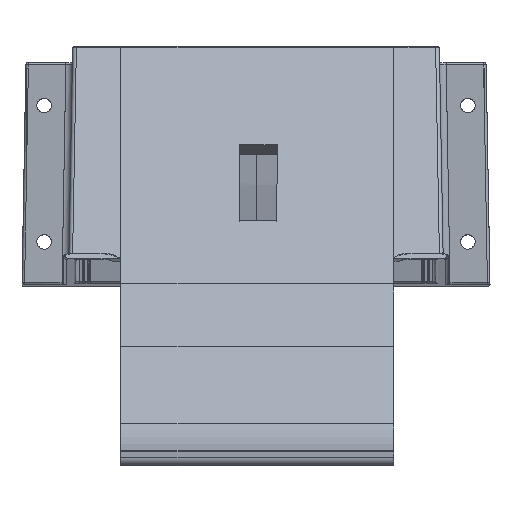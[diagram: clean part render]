
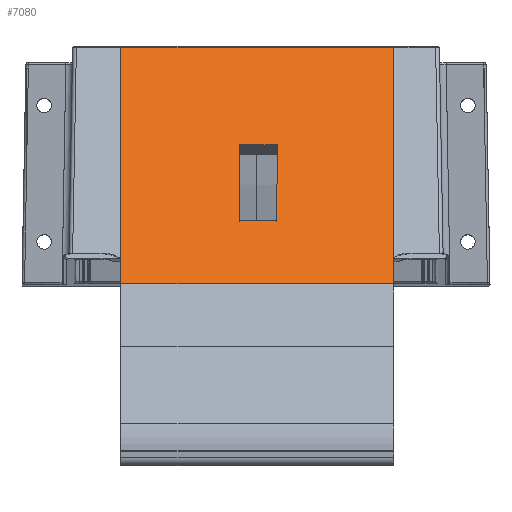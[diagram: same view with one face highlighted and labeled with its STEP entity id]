
A CAD part, left-side view. The second image highlights one B-rep face of the part: STEP entity #7080.
In plain terms, the highlighted planar face has unit normal (-0.8, 0, 0.6).
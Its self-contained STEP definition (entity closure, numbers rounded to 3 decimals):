
#1266=ORIENTED_EDGE('',*,*,#3632,.T.);
#1267=ORIENTED_EDGE('',*,*,#3633,.F.);
#1268=ORIENTED_EDGE('',*,*,#3634,.F.);
#1269=ORIENTED_EDGE('',*,*,#3635,.T.);
#1270=ORIENTED_EDGE('',*,*,#3636,.F.);
#1271=ORIENTED_EDGE('',*,*,#3637,.F.);
#1272=ORIENTED_EDGE('',*,*,#3638,.F.);
#1273=ORIENTED_EDGE('',*,*,#3639,.F.);
#3632=EDGE_CURVE('',#4815,#4816,#5604,.T.);
#3633=EDGE_CURVE('',#4817,#4816,#5605,.T.);
#3634=EDGE_CURVE('',#4818,#4817,#5606,.T.);
#3635=EDGE_CURVE('',#4818,#4815,#5607,.T.);
#3636=EDGE_CURVE('',#4819,#4820,#5608,.T.);
#3637=EDGE_CURVE('',#4821,#4819,#5609,.T.);
#3638=EDGE_CURVE('',#4822,#4821,#5610,.T.);
#3639=EDGE_CURVE('',#4820,#4822,#5611,.T.);
#4815=VERTEX_POINT('',#8636);
#4816=VERTEX_POINT('',#8637);
#4817=VERTEX_POINT('',#8639);
#4818=VERTEX_POINT('',#8641);
#4819=VERTEX_POINT('',#8644);
#4820=VERTEX_POINT('',#8645);
#4821=VERTEX_POINT('',#8647);
#4822=VERTEX_POINT('',#8649);
#5604=LINE('',#8635,#5898);
#5605=LINE('',#8638,#5899);
#5606=LINE('',#8640,#5900);
#5607=LINE('',#8642,#5901);
#5608=LINE('',#8643,#5902);
#5609=LINE('',#8646,#5903);
#5610=LINE('',#8648,#5904);
#5611=LINE('',#8650,#5905);
#5898=VECTOR('',#7786,1000.);
#5899=VECTOR('',#7787,1000.);
#5900=VECTOR('',#7788,1000.);
#5901=VECTOR('',#7789,1000.);
#5902=VECTOR('',#7790,1000.);
#5903=VECTOR('',#7791,1000.);
#5904=VECTOR('',#7792,1000.);
#5905=VECTOR('',#7793,1000.);
#6188=EDGE_LOOP('',(#1266,#1267,#1268,#1269));
#6189=EDGE_LOOP('',(#1270,#1271,#1272,#1273));
#6605=FACE_BOUND('',#6188,.T.);
#6606=FACE_BOUND('',#6189,.T.);
#7022=PLANE('',#7501);
#7080=ADVANCED_FACE('',(#6605,#6606),#7022,.F.);
#7501=AXIS2_PLACEMENT_3D('',#8634,#7784,#7785);
#7784=DIRECTION('',(0.8,0.,-0.6));
#7785=DIRECTION('',(-0.6,0.,-0.8));
#7786=DIRECTION('',(0.6,0.,0.8));
#7787=DIRECTION('',(0.,-1.,0.));
#7788=DIRECTION('',(0.6,0.,0.8));
#7789=DIRECTION('',(0.,-1.,0.));
#7790=DIRECTION('',(0.6,-0.004,0.8));
#7791=DIRECTION('',(-0.003,-1.,-0.004));
#7792=DIRECTION('',(-0.6,0.004,-0.8));
#7793=DIRECTION('',(0.003,1.,0.004));
#8634=CARTESIAN_POINT('',(-233.67,79.27,78.028));
#8635=CARTESIAN_POINT('',(-233.67,-80.73,78.028));
#8636=CARTESIAN_POINT('',(-290.989,-80.73,1.579));
#8637=CARTESIAN_POINT('',(-186.982,-80.73,140.299));
#8638=CARTESIAN_POINT('',(-186.982,79.27,140.299));
#8639=CARTESIAN_POINT('',(-186.982,79.27,140.299));
#8640=CARTESIAN_POINT('',(-233.67,79.27,78.028));
#8641=CARTESIAN_POINT('',(-290.989,79.27,1.579));
#8642=CARTESIAN_POINT('',(-290.989,79.27,1.579));
#8643=CARTESIAN_POINT('',(-233.915,-12.412,77.701));
#8644=CARTESIAN_POINT('',(-263.249,-12.194,38.577));
#8645=CARTESIAN_POINT('',(-229.764,-12.443,83.238));
#8646=CARTESIAN_POINT('',(-263.004,79.488,38.904));
#8647=CARTESIAN_POINT('',(-263.19,9.879,38.656));
#8648=CARTESIAN_POINT('',(-233.856,9.661,77.78));
#8649=CARTESIAN_POINT('',(-229.705,9.63,83.317));
#8650=CARTESIAN_POINT('',(-229.519,79.239,83.565));
